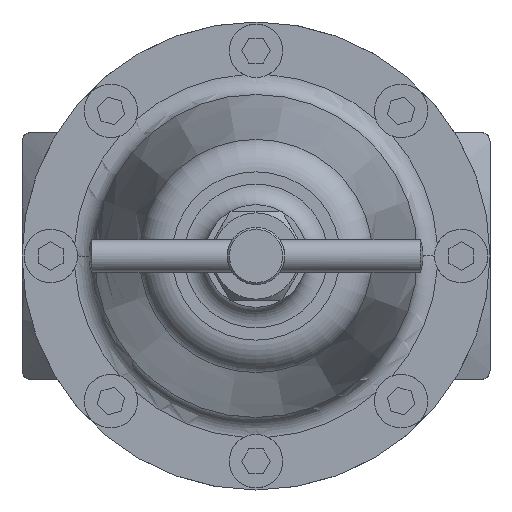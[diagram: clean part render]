
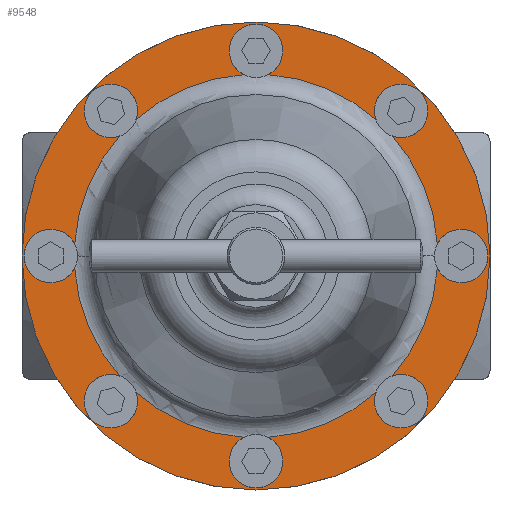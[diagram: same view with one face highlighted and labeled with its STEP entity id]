
A CAD part, front view. The second image highlights one B-rep face of the part: STEP entity #9548.
In plain terms, the highlighted planar face has unit normal (0, -1, 0).
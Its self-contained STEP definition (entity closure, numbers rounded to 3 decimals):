
#47=CARTESIAN_POINT('',(0.,-22.5,0.));
#48=DIRECTION('',(0.,-1.,0.));
#49=DIRECTION('',(-1.,0.,0.));
#50=AXIS2_PLACEMENT_3D('',#47,#48,#49);
#52=CARTESIAN_POINT('',(0.,-22.5,0.));
#53=DIRECTION('',(0.,1.,0.));
#54=DIRECTION('',(-1.,0.,0.));
#55=AXIS2_PLACEMENT_3D('',#52,#53,#54);
#57=CARTESIAN_POINT('',(35.355,-22.5,35.355));
#58=DIRECTION('',(0.,1.,0.));
#59=DIRECTION('',(-0.948,0.,-0.32));
#60=AXIS2_PLACEMENT_3D('',#57,#58,#59);
#62=CARTESIAN_POINT('',(0.,-22.5,50.));
#63=DIRECTION('',(0.,1.,0.));
#64=DIRECTION('',(0.,0.,1.));
#65=AXIS2_PLACEMENT_3D('',#62,#63,#64);
#67=CARTESIAN_POINT('',(0.,-22.5,50.));
#68=DIRECTION('',(0.,1.,0.));
#69=DIRECTION('',(-0.444,0.,-0.896));
#70=AXIS2_PLACEMENT_3D('',#67,#68,#69);
#72=CARTESIAN_POINT('',(-35.355,-22.5,35.355));
#73=DIRECTION('',(0.,1.,0.));
#74=DIRECTION('',(-0.707,0.,0.707));
#75=AXIS2_PLACEMENT_3D('',#72,#73,#74);
#77=CARTESIAN_POINT('',(-35.355,-22.5,35.355));
#78=DIRECTION('',(0.,1.,0.));
#79=DIRECTION('',(0.32,0.,-0.948));
#80=AXIS2_PLACEMENT_3D('',#77,#78,#79);
#82=CARTESIAN_POINT('',(-50.,-22.5,0.));
#83=DIRECTION('',(0.,1.,0.));
#84=DIRECTION('',(-1.,0.,0.));
#85=AXIS2_PLACEMENT_3D('',#82,#83,#84);
#87=CARTESIAN_POINT('',(-50.,-22.5,0.));
#88=DIRECTION('',(0.,1.,0.));
#89=DIRECTION('',(0.896,0.,-0.444));
#90=AXIS2_PLACEMENT_3D('',#87,#88,#89);
#92=CARTESIAN_POINT('',(-35.355,-22.5,-35.355));
#93=DIRECTION('',(0.,1.,0.));
#94=DIRECTION('',(-0.707,0.,-0.707));
#95=AXIS2_PLACEMENT_3D('',#92,#93,#94);
#97=CARTESIAN_POINT('',(-35.355,-22.5,-35.355));
#98=DIRECTION('',(0.,1.,0.));
#99=DIRECTION('',(0.948,0.,0.32));
#100=AXIS2_PLACEMENT_3D('',#97,#98,#99);
#102=CARTESIAN_POINT('',(0.,-22.5,-50.));
#103=DIRECTION('',(0.,1.,0.));
#104=DIRECTION('',(0.,0.,-1.));
#105=AXIS2_PLACEMENT_3D('',#102,#103,#104);
#107=CARTESIAN_POINT('',(0.,-22.5,-50.));
#108=DIRECTION('',(0.,1.,0.));
#109=DIRECTION('',(0.444,0.,0.896));
#110=AXIS2_PLACEMENT_3D('',#107,#108,#109);
#112=CARTESIAN_POINT('',(35.355,-22.5,-35.355));
#113=DIRECTION('',(0.,1.,0.));
#114=DIRECTION('',(0.707,0.,-0.707));
#115=AXIS2_PLACEMENT_3D('',#112,#113,#114);
#117=CARTESIAN_POINT('',(35.355,-22.5,-35.355));
#118=DIRECTION('',(0.,1.,0.));
#119=DIRECTION('',(-0.32,0.,0.948));
#120=AXIS2_PLACEMENT_3D('',#117,#118,#119);
#122=CARTESIAN_POINT('',(50.,-22.5,0.));
#123=DIRECTION('',(0.,1.,0.));
#124=DIRECTION('',(1.,0.,0.));
#125=AXIS2_PLACEMENT_3D('',#122,#123,#124);
#127=CARTESIAN_POINT('',(50.,-22.5,0.));
#128=DIRECTION('',(0.,1.,0.));
#129=DIRECTION('',(-0.896,0.,0.444));
#130=AXIS2_PLACEMENT_3D('',#127,#128,#129);
#132=CARTESIAN_POINT('',(35.355,-22.5,35.355));
#133=DIRECTION('',(0.,1.,0.));
#134=DIRECTION('',(0.707,0.,0.707));
#135=AXIS2_PLACEMENT_3D('',#132,#133,#134);
#4031=CARTESIAN_POINT('',(0.,-22.5,0.));
#4032=DIRECTION('',(0.,1.,0.));
#4033=DIRECTION('',(0.752,0.,0.659));
#4034=AXIS2_PLACEMENT_3D('',#4031,#4032,#4033);
#4068=CARTESIAN_POINT('',(0.,-22.5,0.));
#4069=DIRECTION('',(0.,1.,0.));
#4070=DIRECTION('',(-0.998,0.,0.065));
#4071=AXIS2_PLACEMENT_3D('',#4068,#4069,#4070);
#4095=CARTESIAN_POINT('',(0.,-22.5,0.));
#4096=DIRECTION('',(0.,1.,0.));
#4097=DIRECTION('',(-0.659,0.,0.752));
#4098=AXIS2_PLACEMENT_3D('',#4095,#4096,#4097);
#4122=CARTESIAN_POINT('',(0.,-22.5,0.));
#4123=DIRECTION('',(0.,1.,0.));
#4124=DIRECTION('',(0.065,0.,0.998));
#4125=AXIS2_PLACEMENT_3D('',#4122,#4123,#4124);
#4159=CARTESIAN_POINT('',(0.,-22.5,0.));
#4160=DIRECTION('',(0.,1.,0.));
#4161=DIRECTION('',(0.998,0.,-0.065));
#4162=AXIS2_PLACEMENT_3D('',#4159,#4160,#4161);
#4186=CARTESIAN_POINT('',(0.,-22.5,0.));
#4187=DIRECTION('',(0.,1.,0.));
#4188=DIRECTION('',(0.659,0.,-0.752));
#4189=AXIS2_PLACEMENT_3D('',#4186,#4187,#4188);
#4213=CARTESIAN_POINT('',(0.,-22.5,0.));
#4214=DIRECTION('',(0.,1.,0.));
#4215=DIRECTION('',(-0.065,0.,-0.998));
#4216=AXIS2_PLACEMENT_3D('',#4213,#4214,#4215);
#4240=CARTESIAN_POINT('',(0.,-22.5,0.));
#4241=DIRECTION('',(0.,1.,0.));
#4242=DIRECTION('',(-0.752,0.,-0.659));
#4243=AXIS2_PLACEMENT_3D('',#4240,#4241,#4242);
#8859=CARTESIAN_POINT('',(-57.,-22.5,0.));
#8861=VERTEX_POINT('',#8859);
#8863=CARTESIAN_POINT('',(57.,-22.5,0.));
#8865=VERTEX_POINT('',#8863);
#8958=CARTESIAN_POINT('',(44.176,-22.5,2.887));
#8959=CARTESIAN_POINT('',(56.5,-22.5,0.));
#8960=VERTEX_POINT('',#8958);
#8961=VERTEX_POINT('',#8959);
#8962=CARTESIAN_POINT('',(44.176,-22.5,-2.887));
#8963=VERTEX_POINT('',#8962);
#8997=CARTESIAN_POINT('',(33.279,-22.5,-29.196));
#8998=CARTESIAN_POINT('',(39.952,-22.5,-39.952));
#8999=VERTEX_POINT('',#8997);
#9000=VERTEX_POINT('',#8998);
#9001=CARTESIAN_POINT('',(29.196,-22.5,-33.279));
#9002=VERTEX_POINT('',#9001);
#9036=CARTESIAN_POINT('',(2.887,-22.5,-44.176));
#9037=CARTESIAN_POINT('',(0.,-22.5,-56.5));
#9038=VERTEX_POINT('',#9036);
#9039=VERTEX_POINT('',#9037);
#9040=CARTESIAN_POINT('',(-2.887,-22.5,-44.176));
#9041=VERTEX_POINT('',#9040);
#9075=CARTESIAN_POINT('',(-29.196,-22.5,-33.279));
#9076=CARTESIAN_POINT('',(-39.952,-22.5,-39.952));
#9077=VERTEX_POINT('',#9075);
#9078=VERTEX_POINT('',#9076);
#9079=CARTESIAN_POINT('',(-33.279,-22.5,-29.196));
#9080=VERTEX_POINT('',#9079);
#9110=CARTESIAN_POINT('',(-44.176,-22.5,-2.887));
#9111=CARTESIAN_POINT('',(-56.5,-22.5,0.));
#9112=VERTEX_POINT('',#9110);
#9113=VERTEX_POINT('',#9111);
#9114=CARTESIAN_POINT('',(-44.176,-22.5,2.887));
#9115=VERTEX_POINT('',#9114);
#9149=CARTESIAN_POINT('',(-33.279,-22.5,29.196));
#9150=CARTESIAN_POINT('',(-39.952,-22.5,39.952));
#9151=VERTEX_POINT('',#9149);
#9152=VERTEX_POINT('',#9150);
#9153=CARTESIAN_POINT('',(-29.196,-22.5,33.279));
#9154=VERTEX_POINT('',#9153);
#9188=CARTESIAN_POINT('',(-2.887,-22.5,44.176));
#9189=CARTESIAN_POINT('',(0.,-22.5,56.5));
#9190=VERTEX_POINT('',#9188);
#9191=VERTEX_POINT('',#9189);
#9192=CARTESIAN_POINT('',(2.887,-22.5,44.176));
#9193=VERTEX_POINT('',#9192);
#9227=CARTESIAN_POINT('',(29.196,-22.5,33.279));
#9228=CARTESIAN_POINT('',(39.952,-22.5,39.952));
#9229=VERTEX_POINT('',#9227);
#9230=VERTEX_POINT('',#9228);
#9231=CARTESIAN_POINT('',(33.279,-22.5,29.196));
#9232=VERTEX_POINT('',#9231);
#9488=CARTESIAN_POINT('',(0.,-22.5,0.));
#9489=DIRECTION('',(0.,1.,0.));
#9490=DIRECTION('',(1.,0.,0.));
#9491=AXIS2_PLACEMENT_3D('',#9488,#9489,#9490);
#9492=PLANE('',#9491);
#9494=ORIENTED_EDGE('',*,*,#9493,.F.);
#9496=ORIENTED_EDGE('',*,*,#9495,.T.);
#9497=EDGE_LOOP('',(#9494,#9496));
#9498=FACE_OUTER_BOUND('',#9497,.F.);
#9500=ORIENTED_EDGE('',*,*,#9499,.F.);
#9502=ORIENTED_EDGE('',*,*,#9501,.F.);
#9504=ORIENTED_EDGE('',*,*,#9503,.F.);
#9506=ORIENTED_EDGE('',*,*,#9505,.F.);
#9508=ORIENTED_EDGE('',*,*,#9507,.F.);
#9510=ORIENTED_EDGE('',*,*,#9509,.F.);
#9512=ORIENTED_EDGE('',*,*,#9511,.F.);
#9514=ORIENTED_EDGE('',*,*,#9513,.F.);
#9516=ORIENTED_EDGE('',*,*,#9515,.F.);
#9518=ORIENTED_EDGE('',*,*,#9517,.F.);
#9520=ORIENTED_EDGE('',*,*,#9519,.F.);
#9522=ORIENTED_EDGE('',*,*,#9521,.F.);
#9524=ORIENTED_EDGE('',*,*,#9523,.F.);
#9526=ORIENTED_EDGE('',*,*,#9525,.F.);
#9528=ORIENTED_EDGE('',*,*,#9527,.F.);
#9530=ORIENTED_EDGE('',*,*,#9529,.F.);
#9532=ORIENTED_EDGE('',*,*,#9531,.F.);
#9534=ORIENTED_EDGE('',*,*,#9533,.F.);
#9536=ORIENTED_EDGE('',*,*,#9535,.F.);
#9538=ORIENTED_EDGE('',*,*,#9537,.F.);
#9539=ORIENTED_EDGE('',*,*,#9476,.F.);
#9541=ORIENTED_EDGE('',*,*,#9540,.F.);
#9543=ORIENTED_EDGE('',*,*,#9542,.F.);
#9545=ORIENTED_EDGE('',*,*,#9544,.F.);
#9546=EDGE_LOOP('',(#9500,#9502,#9504,#9506,#9508,#9510,#9512,#9514,#9516,#9518,
#9520,#9522,#9524,#9526,#9528,#9530,#9532,#9534,#9536,#9538,#9539,#9541,#9543,
#9545));
#9547=FACE_BOUND('',#9546,.F.);
#9548=ADVANCED_FACE('',(#9498,#9547),#9492,.F.);
#51=CIRCLE('',#50,57.);
#56=CIRCLE('',#55,57.);
#61=CIRCLE('',#60,6.5);
#66=CIRCLE('',#65,6.5);
#71=CIRCLE('',#70,6.5);
#76=CIRCLE('',#75,6.5);
#81=CIRCLE('',#80,6.5);
#86=CIRCLE('',#85,6.5);
#91=CIRCLE('',#90,6.5);
#96=CIRCLE('',#95,6.5);
#101=CIRCLE('',#100,6.5);
#106=CIRCLE('',#105,6.5);
#111=CIRCLE('',#110,6.5);
#116=CIRCLE('',#115,6.5);
#121=CIRCLE('',#120,6.5);
#126=CIRCLE('',#125,6.5);
#131=CIRCLE('',#130,6.5);
#136=CIRCLE('',#135,6.5);
#4035=CIRCLE('',#4034,44.27);
#4072=CIRCLE('',#4071,44.27);
#4099=CIRCLE('',#4098,44.27);
#4126=CIRCLE('',#4125,44.27);
#4163=CIRCLE('',#4162,44.27);
#4190=CIRCLE('',#4189,44.27);
#4217=CIRCLE('',#4216,44.27);
#4244=CIRCLE('',#4243,44.27);
#9476=EDGE_CURVE('',#8961,#8963,#126,.T.);
#9493=EDGE_CURVE('',#8861,#8865,#51,.T.);
#9495=EDGE_CURVE('',#8861,#8865,#56,.T.);
#9499=EDGE_CURVE('',#9229,#9230,#61,.T.);
#9501=EDGE_CURVE('',#9193,#9229,#4126,.T.);
#9503=EDGE_CURVE('',#9191,#9193,#66,.T.);
#9505=EDGE_CURVE('',#9190,#9191,#71,.T.);
#9507=EDGE_CURVE('',#9154,#9190,#4099,.T.);
#9509=EDGE_CURVE('',#9152,#9154,#76,.T.);
#9511=EDGE_CURVE('',#9151,#9152,#81,.T.);
#9513=EDGE_CURVE('',#9115,#9151,#4072,.T.);
#9515=EDGE_CURVE('',#9113,#9115,#86,.T.);
#9517=EDGE_CURVE('',#9112,#9113,#91,.T.);
#9519=EDGE_CURVE('',#9080,#9112,#4244,.T.);
#9521=EDGE_CURVE('',#9078,#9080,#96,.T.);
#9523=EDGE_CURVE('',#9077,#9078,#101,.T.);
#9525=EDGE_CURVE('',#9041,#9077,#4217,.T.);
#9527=EDGE_CURVE('',#9039,#9041,#106,.T.);
#9529=EDGE_CURVE('',#9038,#9039,#111,.T.);
#9531=EDGE_CURVE('',#9002,#9038,#4190,.T.);
#9533=EDGE_CURVE('',#9000,#9002,#116,.T.);
#9535=EDGE_CURVE('',#8999,#9000,#121,.T.);
#9537=EDGE_CURVE('',#8963,#8999,#4163,.T.);
#9540=EDGE_CURVE('',#8960,#8961,#131,.T.);
#9542=EDGE_CURVE('',#9232,#8960,#4035,.T.);
#9544=EDGE_CURVE('',#9230,#9232,#136,.T.);
